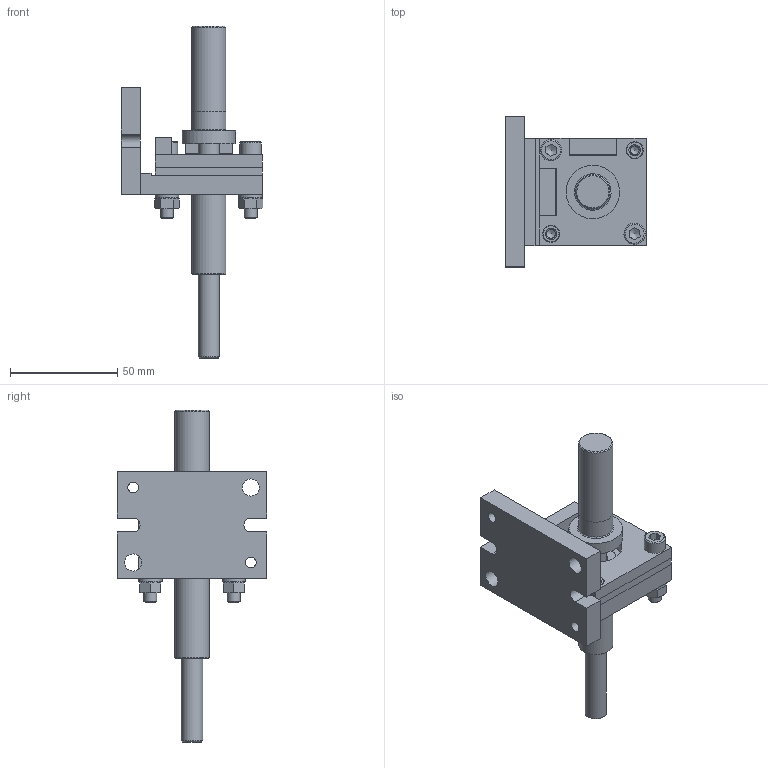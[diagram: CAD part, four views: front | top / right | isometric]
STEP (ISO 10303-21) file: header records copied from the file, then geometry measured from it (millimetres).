
FILE_DESCRIPTION(/* description */ (''),/* implementation_level */ '2;1');
FILE_NAME(/* name */ 'C:\Local Work Area\Progetti\AP\CALIBRI\07.00-SF-SQ CALIBRO SONDA FORI (SQUADRA)\07.00-SF-SQ.stp',/* time_stamp */ '2015-04-02T11:30:23+02:00',/* author */ ('CAD5'),/* organization */ (''),/* preprocessor_version */ 'ST-DEVELOPER v15.2',/* originating_system */ 'Autodesk Inventor 2014',/* authorisation */ '');
FILE_SCHEMA (('AUTOMOTIVE_DESIGN { 1 0 10303 214 3 1 1 }'));
Length unit declared in the file: millimetre
Products named in the file (14): 07.02; 07.11; 07.03; 07.04; 07.06; 07.00-01; UNI 5931 - M 6 x  30 - 1 - 24; UNI 5588 - M6 - 1; UNI 6592 inox - 6,4 x 11; 05.01-a; 05.01-b; 05.01; UNI EN ISO 8735 A8x18; 07.00-SF-SQ
Bounding box: 66.27 x 70 x 155 mm (x, y, z)
Volume: 98572 mm3; surface area: 47722.1 mm2
Topology: 15 solids, 15 shells, 203 faces, 455 edges, 292 vertices
Faces by surface type: plane 94, cylinder 53, cone 49, torus 5, sphere 2
Full cylindrical faces by diameter (mm): 3.242 x1, 4.135 x2, 4.917 x4, 5.3 x2, 6 x3, 6.4 x2, 6.5 x2, 8 x10, 8.2 x4, 10 x6, 11 x3, 15.98 x1, 16 x2, 19 x1, 24 x1, 24.5 x1, 25 x2, 35 x1, 44 x1
Entity records: 4177 total; most frequent: DIRECTION 718, CARTESIAN_POINT 713, ORIENTED_EDGE 530, AXIS2_PLACEMENT_3D 300, EDGE_LOOP 266, EDGE_CURVE 265, VERTEX_POINT 205, ADVANCED_FACE 152
